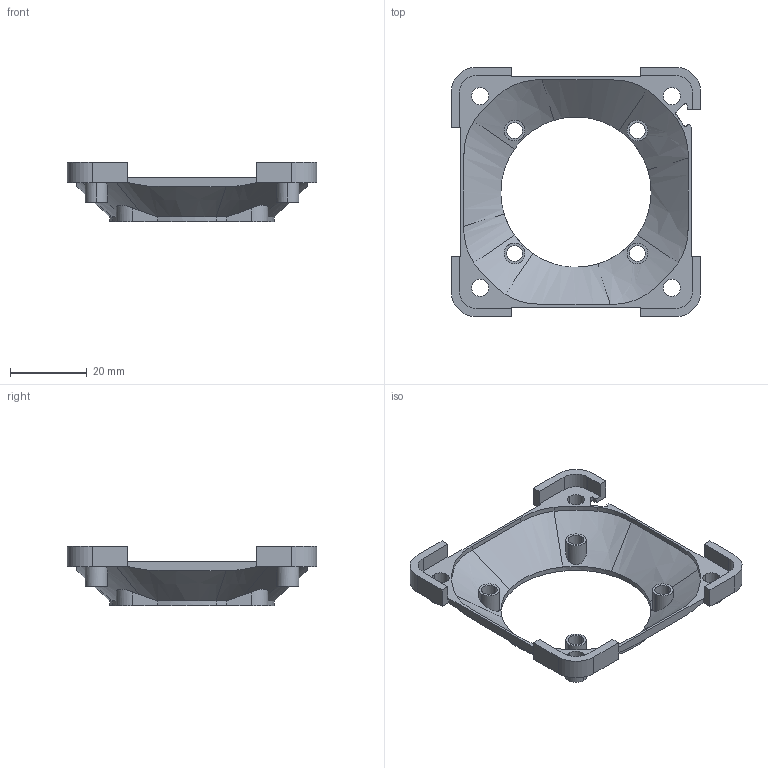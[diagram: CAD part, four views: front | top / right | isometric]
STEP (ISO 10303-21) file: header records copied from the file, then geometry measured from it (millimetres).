
FILE_DESCRIPTION (( 'STEP AP203' ), '1' );
FILE_NAME ('Type_B_Fan_Mount.STEP', '2026-07-26T16:06:54', ( '' ), ( '' ), 'SwSTEP 2.0', 'SolidWorks 2024', '' );
FILE_SCHEMA (( 'CONFIG_CONTROL_DESIGN' ));
Length unit declared in the file: inch
Products named in the file (1): Type_B_Fan_Mount
Bounding box: 65.08 x 65.08 x 15.43 mm (x, y, z)
Volume: 5695.3 mm3; surface area: 9406.6 mm2
Topology: 1 solids, 1 shells, 153 faces, 423 edges, 276 vertices
Faces by surface type: plane 61, cylinder 55, bspline 37
Entity records: 9917 total; most frequent: CARTESIAN_POINT 6160, ORIENTED_EDGE 846, DIRECTION 632, EDGE_CURVE 423, VERTEX_POINT 276, AXIS2_PLACEMENT_3D 214, VECTOR 204, LINE 204
